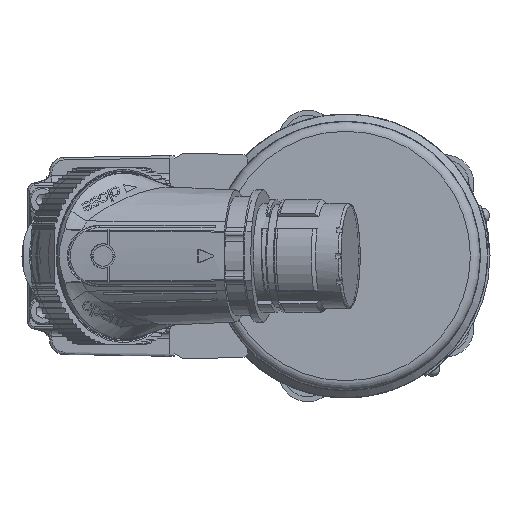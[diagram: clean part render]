
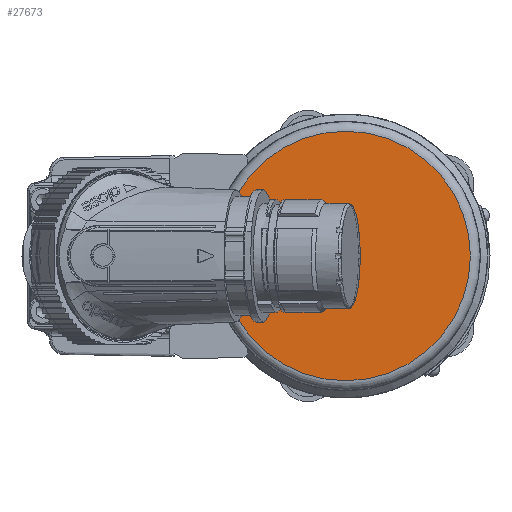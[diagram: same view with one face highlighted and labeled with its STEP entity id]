
A CAD part, left-side view. The second image highlights one B-rep face of the part: STEP entity #27673.
In plain terms, the highlighted planar face has unit normal (-1, 0, 0).
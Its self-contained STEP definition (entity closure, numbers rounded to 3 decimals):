
#5355 = AXIS2_PLACEMENT_3D ( 'NONE', #7788, #57162, #14990 ) ;
#7788 = CARTESIAN_POINT ( 'NONE',  ( -348.4, 0., 0. ) ) ;
#9301 = DIRECTION ( 'NONE',  ( -1., 0., 0. ) ) ;
#14172 = EDGE_LOOP ( 'NONE', ( #35337 ) ) ;
#14990 = DIRECTION ( 'NONE',  ( 0., 0., 1. ) ) ;
#27673 = ADVANCED_FACE ( 'NONE', ( #45860 ), #51582, .T. ) ;
#32075 = EDGE_CURVE ( 'NONE', #69841, #69841, #69379, .T. ) ;
#35337 = ORIENTED_EDGE ( 'NONE', *, *, #32075, .T. ) ;
#45860 = FACE_OUTER_BOUND ( 'NONE', #14172, .T. ) ;
#51582 = PLANE ( 'NONE',  #54141 ) ;
#54141 = AXIS2_PLACEMENT_3D ( 'NONE', #86322, #9301, #58610 ) ;
#57162 = DIRECTION ( 'NONE',  ( -1., 0., 0. ) ) ;
#58610 = DIRECTION ( 'NONE',  ( 0., 0., 1. ) ) ;
#69379 = CIRCLE ( 'NONE', #5355, 25.5 ) ;
#69841 = VERTEX_POINT ( 'NONE', #78946 ) ;
#78946 = CARTESIAN_POINT ( 'NONE',  ( -348.4, 0., 25.5 ) ) ;
#86322 = CARTESIAN_POINT ( 'NONE',  ( -348.4, 0., 0. ) ) ;
